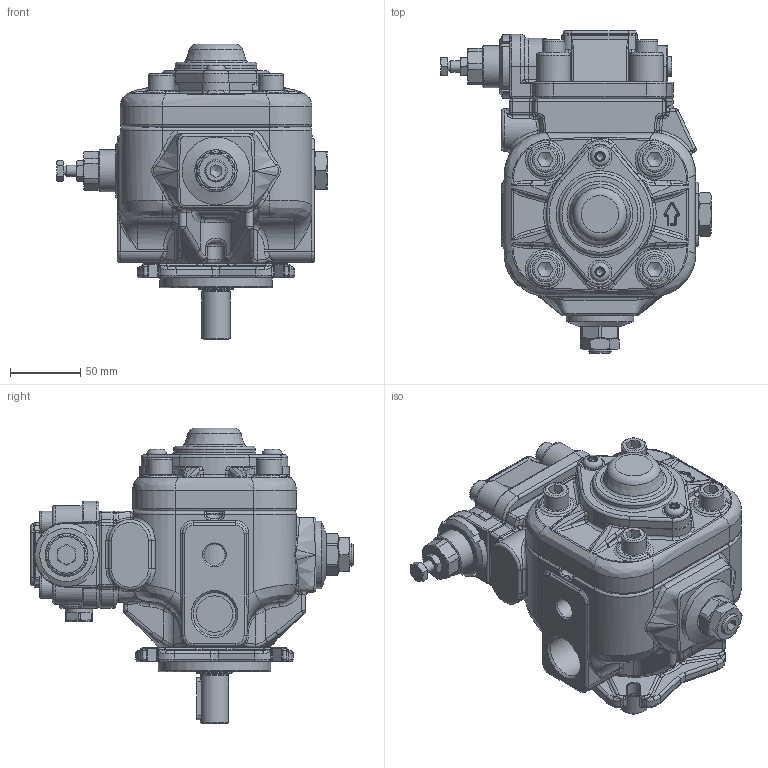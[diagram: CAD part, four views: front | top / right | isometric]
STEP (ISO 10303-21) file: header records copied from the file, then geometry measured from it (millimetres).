
FILE_DESCRIPTION(/* description */ (''),/* implementation_level */ '2;1');
FILE_NAME(/* name */ 'W:\Tecnico\Archivio\Berarma\Dimensioni Pompe\3D Export\Montaggio 3D semplificato\PLP-PHP 05\PHP05 FHRMA.stp',/* time_stamp */ '2018-10-10T15:07:07+02:00',/* author */ ('marcop'),/* organization */ (''),/* preprocessor_version */ 'ST-DEVELOPER v17',/* originating_system */ 'Autodesk Inventor 2018',/* authorisation */ '');
FILE_SCHEMA (('AUTOMOTIVE_DESIGN { 1 0 10303 214 3 1 1 }'));
Products named in the file (1): PHP05_Shrinkwrap_1
Bounding box: 192 x 229.1 x 210 mm (x, y, z)
Volume: 2103567.6 mm3; surface area: 228764.2 mm2
Topology: 2 solids, 2 shells, 1945 faces, 4806 edges, 2878 vertices
Faces by surface type: plane 540, bspline 448, cylinder 425, torus 283, cone 213, sphere 36
Full cylindrical faces by diameter (mm): 1.7 x4, 2.5 x2, 6 x1, 6.5 x2, 8 x1, 8.5 x4, 9 x4, 12 x2, 13 x1, 14 x3, 14.5 x1, 14.95 x1, 15 x1, 15.5 x1, 16 x5, 16.376 x1, 16.5 x4, 17 x3, 18 x5, 19 x2, 19.5 x2, 20 x3, 24.117 x1, 25 x2, 26 x1, 28 x3, 30 x2, 30.291 x1, 35 x1, 40 x1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
Entity records: 73511 total; most frequent: CARTESIAN_POINT 28491, ORIENTED_EDGE 9458, DIRECTION 8582, EDGE_CURVE 4729, AXIS2_PLACEMENT_3D 3605, VERTEX_POINT 2878, CIRCLE 2067, EDGE_LOOP 2039
